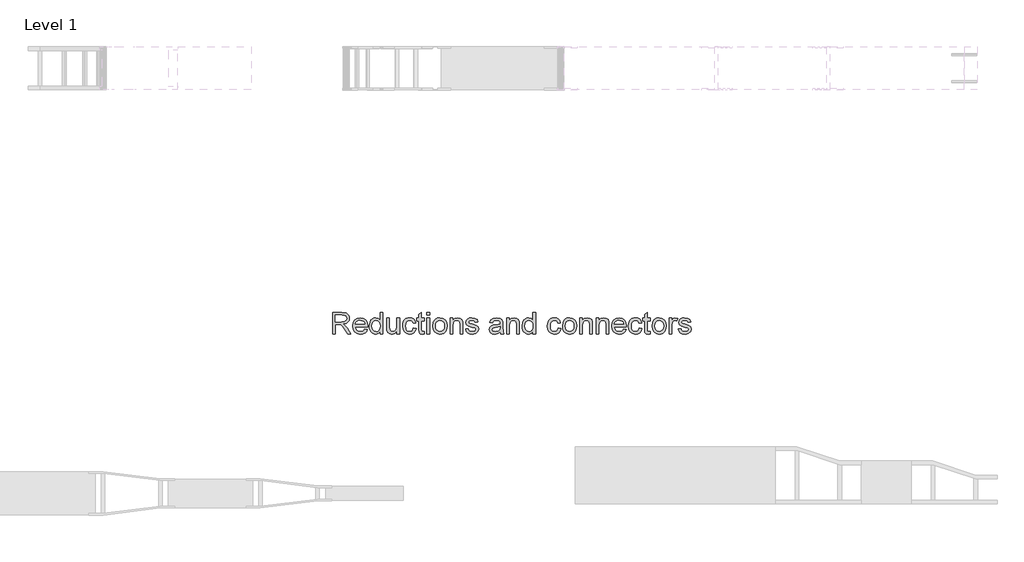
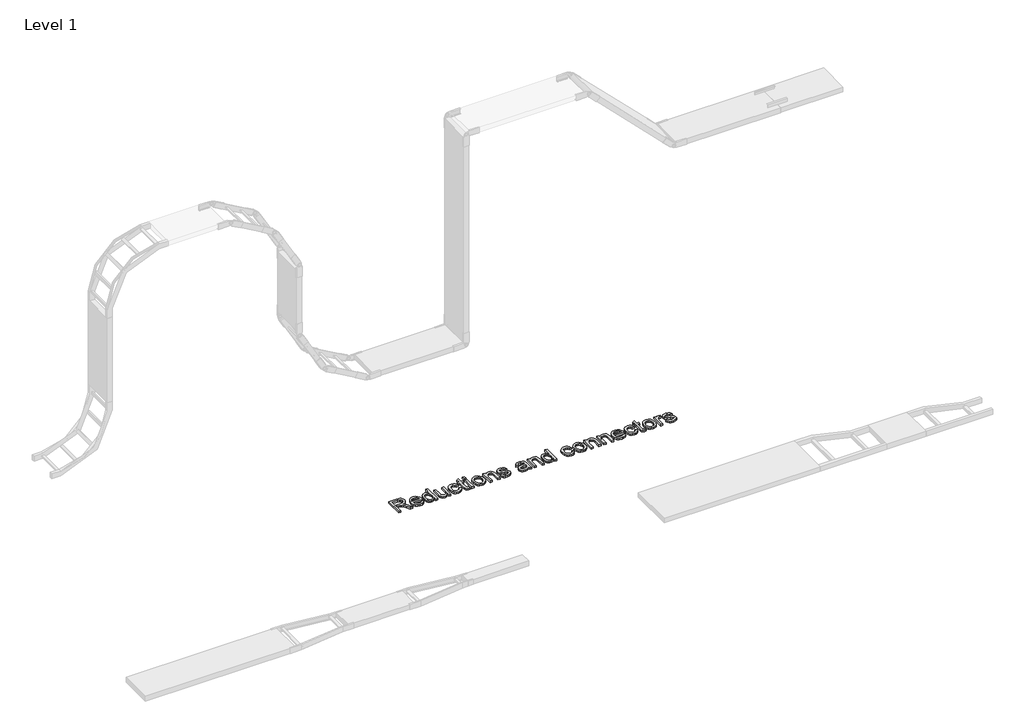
# One storey, part 67 of 106: 1 proxy.
"""IFC4 building model written with IfcOpenShell, lengths in millimetres."""

from ifc_helpers import new_model, si_unit, origin, origin_with_axes, place, context, project, spatial, polyline, outline, extrude, element, save

model = new_model("IFC4")

# Units and contexts
model_context = context("Model", 3, world=origin())
ifc_project = project(units=[si_unit("LENGTHUNIT", "METRE", prefix="MILLI")], contexts=[model_context])

# Site, building, storey
site = spatial("IfcSite", under=ifc_project)
building = spatial("IfcBuilding", under=site)
storey = spatial("IfcBuildingStorey", under=building, Name="Level 1", Elevation=0.0)

# Proxy
placement = place(None, origin())
element("IfcBuildingElementProxy", 1, Name="150mm Arial 2", ObjectType="150mm Arial 2", at=placement, inside=storey, context=model_context, shape_type="SweptSolid", body=[
    extrude(outline(polyline([(54568.5420892, 54347.8476348), (54568.5420892, 54498.5321), (54633.4732613, 54498.5321), (54663.6211908, 54494.467004), (54672.9010141, 54488.8384094), (54680.1023042, 54480.0828179), (54684.7238218, 54469.2257006), (54686.2643276, 54457.2925283), (54683.7121463, 54442.4484898), (54676.0556023, 54430.1428371), (54663.0647693, 54421.1205312), (54644.5097212, 54416.1265331), (54655.2150872, 54408.0699174), (54670.48219, 54388.6825362), (54695.6085303, 54347.8476348), (54673.7195516, 54347.8476348), (54654.1114412, 54379.0808162), (54639.9479844, 54399.7557843), (54629.9967765, 54409.5230513), (54621.0388499, 54413.1099007), (54610.1127546, 54413.7720883), (54587.3776473, 54413.7720883), (54587.3776473, 54347.8476348), (54568.5420892, 54347.8476348)]), holes=[polyline([(54587.3776473, 54432.6076465), (54629.536924, 54432.6076465), (54651.0396266, 54435.2747909), (54663.2533088, 54443.8096532), (54667.4287695, 54456.5935526), (54665.4376082, 54465.7814054), (54659.4641243, 54473.1850305), (54649.186421, 54478.068664), (54634.2826017, 54479.6965419), (54587.3776473, 54479.6965419), (54587.3776473, 54432.6076465)])]), origin_with_axes(), (0.0, 0.0, 1.0), 15.0),
    extrude(outline(polyline([(54794.3480578, 54380.8098615), (54812.815734, 54378.4554168), (54806.1616684, 54364.5402803), (54795.5436743, 54354.1384169), (54781.200875, 54347.6544967), (54763.3723938, 54345.49319), (54741.2718829, 54349.2225937), (54724.2665377, 54360.4108049), (54713.4232159, 54378.3312566), (54709.8087753, 54402.2573819), (54713.4600041, 54426.988249), (54724.4136905, 54445.4835163), (54741.1891095, 54457.0166168), (54762.305536, 54460.8609837), (54782.7643735, 54457.0258139), (54799.1121296, 54445.5203045), (54809.8312913, 54427.0618254), (54813.4043452, 54402.3677465), (54813.2939806, 54397.2909749), (54728.6443335, 54397.2909749), (54731.9046876, 54383.1918975), (54739.4784582, 54372.8268223), (54750.409152, 54366.4532667), (54763.7402758, 54364.3287482), (54782.207952, 54368.2650855), (54794.3480578, 54380.8098615)]), holes=[polyline([(54728.6443335, 54416.1265331), (54794.568787, 54416.1265331), (54792.0212042, 54426.0777411), (54787.0272061, 54433.1962577), (54776.0459285, 54439.8181336), (54762.2319596, 54442.0254255), (54749.5354323, 54440.2641905), (54739.0369998, 54434.9804853), (54731.7391407, 54426.7445272), (54728.6443335, 54416.1265331)])]), origin_with_axes(), (0.0, 0.0, 1.0), 15.0),
    extrude(outline(polyline([(54900.5188016, 54347.8476348), (54900.5188016, 54365.6163351), (54888.056799, 54350.5239763), (54870.8307246, 54345.49319), (54858.6538306, 54347.3142059), (54847.5070061, 54352.7772535), (54838.0708329, 54361.5006553), (54831.0258927, 54373.1027337), (54826.6388999, 54387.1144392), (54825.176569, 54403.0667223), (54830.5660402, 54433.0491049), (54837.2982807, 54444.9408904), (54846.7160598, 54453.6872848), (54858.1066061, 54459.067559), (54870.7571482, 54460.8609837), (54888.1211784, 54455.7290299), (54900.5188016, 54442.3933075), (54900.5188016, 54498.5321), (54919.3543598, 54498.5321), (54919.3543598, 54347.8476348), (54900.5188016, 54347.8476348)]), holes=[polyline([(54844.0121271, 54403.1402987), (54846.1366457, 54386.1027638), (54852.5102012, 54373.9856505), (54861.7716305, 54366.7429738), (54872.55977, 54364.3287482), (54883.343311, 54366.6326092), (54892.3702154, 54373.5441921), (54898.4816551, 54385.1922558), (54900.5188016, 54401.7055589), (54898.4448669, 54419.7593678), (54892.2230626, 54432.2765527), (54882.9662319, 54439.5882073), (54871.7872178, 54442.0254255), (54860.8887137, 54439.6847764), (54851.9583782, 54432.6628288), (54845.9986899, 54420.6008979), (54844.0121271, 54403.1402987)])]), origin_with_axes(), (0.0, 0.0, 1.0), 15.0),
    extrude(outline(polyline([(55018.2410401, 54347.8476348), (55018.2410401, 54366.8671339), (55003.4889721, 54350.836676), (54984.2487437, 54345.49319), (54966.5352256, 54349.2455864), (54954.3215434, 54358.6633654), (54948.711343, 54372.5325167), (54947.607697, 54390.0436996), (54947.607697, 54458.5065389), (54966.4432551, 54458.5065389), (54966.4432551, 54398.9096557), (54967.5836893, 54379.7062156), (54975.0332997, 54368.4306324), (54989.0679978, 54364.3287482), (55004.7949531, 54368.5226029), (55015.1876195, 54379.9453389), (55018.2410401, 54400.9330067), (55018.2410401, 54458.5065389), (55037.0765982, 54458.5065389), (55037.0765982, 54347.8476348), (55018.2410401, 54347.8476348)])), origin_with_axes(), (0.0, 0.0, 1.0), 15.0),
    extrude(outline(polyline([(55133.6088338, 54387.8731959), (55152.4443919, 54385.5187511), (55147.1928764, 54368.7663247), (55137.3244419, 54356.1065856), (55123.7679904, 54348.1465389), (55107.4524239, 54345.49319), (55087.4166507, 54349.1950026), (55071.7494763, 54360.3004403), (55061.6373199, 54378.3220596), (55058.2666011, 54402.7724167), (55059.7059394, 54419.5340401), (55064.0239544, 54434.0607803), (55071.2896238, 54445.7916175), (55081.5719255, 54454.1655314), (55093.8729797, 54459.1871206), (55107.1949065, 54460.8609837), (55123.1104013, 54458.5617212), (55135.8345198, 54451.6639338), (55144.9625918, 54440.5355035), (55150.0899471, 54425.5443122), (55131.254389, 54423.1898674), (55122.5171916, 54437.2981419), (55107.3420593, 54442.0254255), (55095.1697638, 54439.6985719), (55085.5082629, 54432.7180111), (55079.2036852, 54420.7066639), (55077.1021593, 54403.2874515), (55079.1576999, 54385.6337142), (55085.3243219, 54373.5809803), (55094.8110788, 54366.6418062), (55106.8270245, 54364.3287482), (55116.5804959, 54365.772685), (55124.5773308, 54370.1044955), (55130.3944648, 54377.4345442), (55133.6088338, 54387.8731959)])), origin_with_axes(), (0.0, 0.0, 1.0), 15.0),
    extrude(outline(polyline([(55208.9510664, 54363.556196), (55211.3055111, 54347.2958118), (55197.2156307, 54345.49319), (55181.4334931, 54348.620187), (55173.5608184, 54356.8239555), (55171.2799501, 54378.1978994), (55171.2799501, 54439.6709808), (55157.1532814, 54439.6709808), (55157.1532814, 54458.5065389), (55171.2799501, 54458.5065389), (55171.2799501, 54485.3987128), (55190.1155082, 54496.4719608), (55190.1155082, 54458.5065389), (55208.9510664, 54458.5065389), (55208.9510664, 54439.6709808), (55190.1155082, 54439.6709808), (55190.1155082, 54378.7497224), (55191.1087896, 54369.0376377), (55194.3277571, 54365.597941), (55200.7472979, 54364.3287482), (55208.9510664, 54363.556196)])), origin_with_axes(), (0.0, 0.0, 1.0), 15.0),
    extrude(outline(polyline([(55227.7866245, 54479.6965419), (55227.7866245, 54498.5321), (55246.6221827, 54498.5321), (55246.6221827, 54479.6965419), (55227.7866245, 54479.6965419)])), origin_with_axes(), (0.0, 0.0, 1.0), 15.0),
    extrude(outline(polyline([(55227.7866245, 54347.8476348), (55227.7866245, 54458.5065389), (55246.6221827, 54458.5065389), (55246.6221827, 54347.8476348), (55227.7866245, 54347.8476348)])), origin_with_axes(), (0.0, 0.0, 1.0), 15.0),
    extrude(outline(polyline([(55270.1666304, 54403.1770869), (55274.2409235, 54429.8577286), (55286.4638027, 54448.6105133), (55301.5653587, 54457.7983661), (55319.6467587, 54460.8609837), (55339.4342115, 54457.13158), (55355.2393417, 54445.9433688), (55365.5998184, 54428.179267), (55369.0533107, 54404.7221912), (55367.5266004, 54385.693495), (55362.9464695, 54371.2081415), (55355.4462754, 54360.3602211), (55345.1593751, 54352.2438246), (55332.9410943, 54347.1808487), (55319.6467587, 54345.49319), (55299.6201826, 54349.2087982), (55283.8334465, 54360.3556226), (55273.5833344, 54378.492205), (55270.1666304, 54403.1770869)]), holes=[polyline([(55289.0021885, 54403.2138751), (55291.1818893, 54386.1671431), (55297.7209918, 54374.0224387), (55307.5618352, 54366.7521708), (55319.6467587, 54364.3287482), (55331.6765, 54366.7659664), (55341.4989492, 54374.077621), (55348.0380517, 54386.3832738), (55350.2177525, 54403.8024862), (55348.0242561, 54420.3525775), (55341.4437669, 54432.331735), (55331.6075221, 54439.6020029), (55319.6467587, 54442.0254255), (55307.5618352, 54439.6112), (55297.7209918, 54432.3685232), (55291.1818893, 54420.25141), (55289.0021885, 54403.2138751)])]), origin_with_axes(), (0.0, 0.0, 1.0), 15.0),
    extrude(outline(polyline([(55390.2433136, 54347.8476348), (55390.2433136, 54458.5065389), (55409.0788717, 54458.5065389), (55409.0788717, 54443.0554951), (55423.4814519, 54456.4096116), (55443.1447445, 54460.8609837), (55460.931839, 54457.2741342), (55473.0719448, 54447.8563552), (55478.7189334, 54434.0055981), (55479.7122148, 54415.7954393), (55479.7122148, 54347.8476348), (55460.8766567, 54347.8476348), (55460.8766567, 54413.2570535), (55458.7061529, 54429.9221079), (55451.0358133, 54438.7328817), (55438.1047612, 54442.0254255), (55427.0728998, 54440.1768185), (55417.6689163, 54434.6309974), (55411.2263829, 54423.9164343), (55409.0788717, 54406.5616012), (55409.0788717, 54347.8476348), (55390.2433136, 54347.8476348)])), origin_with_axes(), (0.0, 0.0, 1.0), 15.0),
    extrude(outline(polyline([(55498.547773, 54380.8098615), (55517.3833311, 54383.1643063), (55520.3539782, 54375.1076906), (55526.1021344, 54369.1847905), (55546.0781267, 54364.3287482), (55565.2815669, 54368.7801203), (55571.5355608, 54379.227969), (55569.9628653, 54384.028829), (55565.2447787, 54387.6892549), (55545.8573975, 54393.060332), (55517.4936957, 54402.275776), (55505.1144666, 54413.0363243), (55500.9022177, 54428.2298507), (55504.2867321, 54442.2645488), (55513.5205702, 54452.988309), (55525.4951291, 54458.5617212), (55541.700331, 54460.8609837), (55564.6193793, 54457.1637696), (55579.1875063, 54447.1573794), (55585.6622294, 54430.2532017), (55566.8266713, 54427.8987569), (55559.7449429, 54438.2914233), (55543.171859, 54442.0254255), (55525.1456412, 54438.4569702), (55519.7377759, 54430.1428371), (55521.9818561, 54424.6613954), (55529.0084022, 54420.5043288), (55545.2319982, 54416.4944151), (55572.8783301, 54407.628459), (55585.7174117, 54397.5852805), (55590.371119, 54381.2145317), (55584.9080713, 54363.188314), (55569.1443278, 54350.1101091), (55545.8206093, 54345.49319), (55526.8287013, 54347.7188761), (55512.9687472, 54354.3959343), (55503.716515, 54365.4507882), (55498.547773, 54380.8098615)])), origin_with_axes(), (0.0, 0.0, 1.0), 15.0),
    extrude(outline(polyline([(55741.0555842, 54361.9743034), (55722.7902431, 54349.2087982), (55702.6119157, 54345.49319), (55686.8711648, 54347.7280731), (55675.2598894, 54354.4327225), (55668.099986, 54364.6138567), (55665.7133516, 54377.2781944), (55669.3185951, 54392.1774152), (55678.7915565, 54402.9931459), (55691.980126, 54409.1735634), (55708.2772984, 54412.0062547), (55740.9452196, 54418.4809779), (55741.0555842, 54422.6748326), (55739.7588002, 54431.0809362), (55735.8684481, 54436.580772), (55727.1680389, 54440.6642622), (55715.0463271, 54442.0254255), (55695.9900398, 54438.4017879), (55686.9033545, 54425.5443122), (55668.0677963, 54427.8987569), (55676.2163825, 54446.2928567), (55692.6239195, 54457.0717991), (55717.4743483, 54460.8609837), (55740.3014261, 54457.5132575), (55753.19569, 54449.107154), (55758.9714374, 54436.3232546), (55759.8911423, 54419.8421412), (55759.8911423, 54396.4080581), (55760.8476355, 54363.6849547), (55764.6000319, 54347.8476348), (55745.7644737, 54347.8476348), (55741.0555842, 54361.9743034)]), holes=[polyline([(55741.0555842, 54399.6454197), (55710.6685314, 54393.8696724), (55694.4633295, 54390.8162518), (55687.1240837, 54385.8498449), (55684.5489097, 54378.6025696), (55690.1591102, 54368.4122383), (55706.6218294, 54364.3287482), (55725.6781168, 54368.8353026), (55737.9653754, 54379.7430038), (55740.9452196, 54394.3111308), (55741.0555842, 54399.6454197)])]), origin_with_axes(), (0.0, 0.0, 1.0), 15.0),
    extrude(outline(polyline([(55785.7900348, 54347.8476348), (55785.7900348, 54458.5065389), (55804.625593, 54458.5065389), (55804.625593, 54443.0554951), (55819.0281731, 54456.4096116), (55838.6914657, 54460.8609837), (55856.4785602, 54457.2741342), (55868.618666, 54447.8563552), (55874.2656546, 54434.0055981), (55875.258936, 54415.7954393), (55875.258936, 54347.8476348), (55856.4233779, 54347.8476348), (55856.4233779, 54413.2570535), (55854.2528741, 54429.9221079), (55846.5825345, 54438.7328817), (55833.6514824, 54442.0254255), (55822.619621, 54440.1768185), (55813.2156375, 54434.6309974), (55806.7731041, 54423.9164343), (55804.625593, 54406.5616012), (55804.625593, 54347.8476348), (55785.7900348, 54347.8476348)])), origin_with_axes(), (0.0, 0.0, 1.0), 15.0),
    extrude(outline(polyline([(55969.4367268, 54347.8476348), (55969.4367268, 54365.6163351), (55956.9747242, 54350.5239763), (55939.7486498, 54345.49319), (55927.5717557, 54347.3142059), (55916.4249313, 54352.7772535), (55906.9887581, 54361.5006553), (55899.9438179, 54373.1027337), (55895.5568251, 54387.1144392), (55894.0944942, 54403.0667223), (55899.4839654, 54433.0491049), (55906.2162059, 54444.9408904), (55915.633985, 54453.6872848), (55927.0245313, 54459.067559), (55939.6750734, 54460.8609837), (55957.0391036, 54455.7290299), (55969.4367268, 54442.3933075), (55969.4367268, 54498.5321), (55988.2722849, 54498.5321), (55988.2722849, 54347.8476348), (55969.4367268, 54347.8476348)]), holes=[polyline([(55912.9300523, 54403.1402987), (55915.0545709, 54386.1027638), (55921.4281264, 54373.9856505), (55930.6895557, 54366.7429738), (55941.4776952, 54364.3287482), (55952.2612361, 54366.6326092), (55961.2881406, 54373.5441921), (55967.3995802, 54385.1922558), (55969.4367268, 54401.7055589), (55967.362792, 54419.7593678), (55961.1409878, 54432.2765527), (55951.8841571, 54439.5882073), (55940.705143, 54442.0254255), (55929.8066389, 54439.6847764), (55920.8763034, 54432.6628288), (55914.9166151, 54420.6008979), (55912.9300523, 54403.1402987)])]), origin_with_axes(), (0.0, 0.0, 1.0), 15.0),
    extrude(outline(polyline([(56146.0200845, 54387.8731959), (56164.8556426, 54385.5187511), (56159.6041272, 54368.7663247), (56149.7356926, 54356.1065856), (56136.1792411, 54348.1465389), (56119.8636746, 54345.49319), (56099.8279015, 54349.1950026), (56084.160727, 54360.3004403), (56074.0485706, 54378.3220596), (56070.6778519, 54402.7724167), (56072.1171902, 54419.5340401), (56076.4352051, 54434.0607803), (56083.7008745, 54445.7916175), (56093.9831763, 54454.1655314), (56106.2842305, 54459.1871206), (56119.6061572, 54460.8609837), (56135.521652, 54458.5617212), (56148.2457706, 54451.6639338), (56157.3738426, 54440.5355035), (56162.5011979, 54425.5443122), (56143.6656397, 54423.1898674), (56134.9284423, 54437.2981419), (56119.75331, 54442.0254255), (56107.5810145, 54439.6985719), (56097.9195136, 54432.7180111), (56091.6149359, 54420.7066639), (56089.51341, 54403.2874515), (56091.5689507, 54385.6337142), (56097.7355726, 54373.5809803), (56107.2223296, 54366.6418062), (56119.2382752, 54364.3287482), (56128.9917466, 54365.772685), (56136.9885815, 54370.1044955), (56142.8057155, 54377.4345442), (56146.0200845, 54387.8731959)])), origin_with_axes(), (0.0, 0.0, 1.0), 15.0),
    extrude(outline(polyline([(56176.6278665, 54403.1770869), (56180.7021596, 54429.8577286), (56192.9250389, 54448.6105133), (56208.0265948, 54457.7983661), (56226.1079948, 54460.8609837), (56245.8954476, 54457.13158), (56261.7005779, 54445.9433688), (56272.0610546, 54428.179267), (56275.5145468, 54404.7221912), (56273.9878365, 54385.693495), (56269.4077057, 54371.2081415), (56261.9075115, 54360.3602211), (56251.6206112, 54352.2438246), (56239.4023304, 54347.1808487), (56226.1079948, 54345.49319), (56206.0814187, 54349.2087982), (56190.2946826, 54360.3556226), (56180.0445705, 54378.492205), (56176.6278665, 54403.1770869)]), holes=[polyline([(56195.4634246, 54403.2138751), (56197.6431255, 54386.1671431), (56204.1822279, 54374.0224387), (56214.0230713, 54366.7521708), (56226.1079948, 54364.3287482), (56238.1377361, 54366.7659664), (56247.9601853, 54374.077621), (56254.4992878, 54386.3832738), (56256.6789886, 54403.8024862), (56254.4854922, 54420.3525775), (56247.905003, 54432.331735), (56238.0687582, 54439.6020029), (56226.1079948, 54442.0254255), (56214.0230713, 54439.6112), (56204.1822279, 54432.3685232), (56197.6431255, 54420.25141), (56195.4634246, 54403.2138751)])]), origin_with_axes(), (0.0, 0.0, 1.0), 15.0),
    extrude(outline(polyline([(56296.7045497, 54347.8476348), (56296.7045497, 54458.5065389), (56315.5401079, 54458.5065389), (56315.5401079, 54443.0554951), (56329.942688, 54456.4096116), (56349.6059806, 54460.8609837), (56367.3930751, 54457.2741342), (56379.5331809, 54447.8563552), (56385.1801695, 54434.0055981), (56386.1734509, 54415.7954393), (56386.1734509, 54347.8476348), (56367.3378928, 54347.8476348), (56367.3378928, 54413.2570535), (56365.167389, 54429.9221079), (56357.4970494, 54438.7328817), (56344.5659973, 54442.0254255), (56333.5341359, 54440.1768185), (56324.1301524, 54434.6309974), (56317.687619, 54423.9164343), (56315.5401079, 54406.5616012), (56315.5401079, 54347.8476348), (56296.7045497, 54347.8476348)])), origin_with_axes(), (0.0, 0.0, 1.0), 15.0),
    extrude(outline(polyline([(56412.0723434, 54347.8476348), (56412.0723434, 54458.5065389), (56430.9079015, 54458.5065389), (56430.9079015, 54443.0554951), (56445.3104817, 54456.4096116), (56464.9737743, 54460.8609837), (56482.7608688, 54457.2741342), (56494.9009746, 54447.8563552), (56500.5479632, 54434.0055981), (56501.5412446, 54415.7954393), (56501.5412446, 54347.8476348), (56482.7056865, 54347.8476348), (56482.7056865, 54413.2570535), (56480.5351827, 54429.9221079), (56472.8648431, 54438.7328817), (56459.933791, 54442.0254255), (56448.9019296, 54440.1768185), (56439.4979461, 54434.6309974), (56433.0554127, 54423.9164343), (56430.9079015, 54406.5616012), (56430.9079015, 54347.8476348), (56412.0723434, 54347.8476348)])), origin_with_axes(), (0.0, 0.0, 1.0), 15.0),
    extrude(outline(polyline([(56604.9160853, 54380.8098615), (56623.3837614, 54378.4554168), (56616.7296958, 54364.5402803), (56606.1117017, 54354.1384169), (56591.7689025, 54347.6544967), (56573.9404213, 54345.49319), (56551.8399104, 54349.2225937), (56534.8345652, 54360.4108049), (56523.9912434, 54378.3312566), (56520.3768028, 54402.2573819), (56524.0280316, 54426.988249), (56534.981718, 54445.4835163), (56551.757137, 54457.0166168), (56572.8735635, 54460.8609837), (56593.3324009, 54457.0258139), (56609.6801571, 54445.5203045), (56620.3993187, 54427.0618254), (56623.9723726, 54402.3677465), (56623.862008, 54397.2909749), (56539.2123609, 54397.2909749), (56542.4727151, 54383.1918975), (56550.0464857, 54372.8268223), (56560.9771795, 54366.4532667), (56574.3083033, 54364.3287482), (56592.7759794, 54368.2650855), (56604.9160853, 54380.8098615)]), holes=[polyline([(56539.2123609, 54416.1265331), (56605.1368145, 54416.1265331), (56602.5892316, 54426.0777411), (56597.5952336, 54433.1962577), (56586.613956, 54439.8181336), (56572.7999871, 54442.0254255), (56560.1034597, 54440.2641905), (56549.6050273, 54434.9804853), (56542.3071682, 54426.7445272), (56539.2123609, 54416.1265331)])]), origin_with_axes(), (0.0, 0.0, 1.0), 15.0),
    extrude(outline(polyline([(56713.4412738, 54387.8731959), (56732.276832, 54385.5187511), (56727.0253165, 54368.7663247), (56717.156882, 54356.1065856), (56703.6004305, 54348.1465389), (56687.284864, 54345.49319), (56667.2490908, 54349.1950026), (56651.5819164, 54360.3004403), (56641.46976, 54378.3220596), (56638.0990412, 54402.7724167), (56639.5383795, 54419.5340401), (56643.8563945, 54434.0607803), (56651.1220639, 54445.7916175), (56661.4043656, 54454.1655314), (56673.7054198, 54459.1871206), (56687.0273466, 54460.8609837), (56702.9428414, 54458.5617212), (56715.6669599, 54451.6639338), (56724.7950319, 54440.5355035), (56729.9223872, 54425.5443122), (56711.0868291, 54423.1898674), (56702.3496317, 54437.2981419), (56687.1744994, 54442.0254255), (56675.0022039, 54439.6985719), (56665.340703, 54432.7180111), (56659.0361253, 54420.7066639), (56656.9345994, 54403.2874515), (56658.99014, 54385.6337142), (56665.156762, 54373.5809803), (56674.6435189, 54366.6418062), (56686.6594646, 54364.3287482), (56696.412936, 54365.772685), (56704.4097709, 54370.1044955), (56710.2269049, 54377.4345442), (56713.4412738, 54387.8731959)])), origin_with_axes(), (0.0, 0.0, 1.0), 15.0),
    extrude(outline(polyline([(56788.7835065, 54363.556196), (56791.1379512, 54347.2958118), (56777.0480708, 54345.49319), (56761.2659332, 54348.620187), (56753.3932585, 54356.8239555), (56751.1123901, 54378.1978994), (56751.1123901, 54439.6709808), (56736.9857215, 54439.6709808), (56736.9857215, 54458.5065389), (56751.1123901, 54458.5065389), (56751.1123901, 54485.3987128), (56769.9479483, 54496.4719608), (56769.9479483, 54458.5065389), (56788.7835065, 54458.5065389), (56788.7835065, 54439.6709808), (56769.9479483, 54439.6709808), (56769.9479483, 54378.7497224), (56770.9412297, 54369.0376377), (56774.1601971, 54365.597941), (56780.579738, 54364.3287482), (56788.7835065, 54363.556196)])), origin_with_axes(), (0.0, 0.0, 1.0), 15.0),
    extrude(outline(polyline([(56802.9101751, 54403.1770869), (56806.9844682, 54429.8577286), (56819.2073475, 54448.6105133), (56834.3089034, 54457.7983661), (56852.3903034, 54460.8609837), (56872.1777562, 54457.13158), (56887.9828865, 54445.9433688), (56898.3433631, 54428.179267), (56901.7968554, 54404.7221912), (56900.2701451, 54385.693495), (56895.6900143, 54371.2081415), (56888.1898201, 54360.3602211), (56877.9029198, 54352.2438246), (56865.684639, 54347.1808487), (56852.3903034, 54345.49319), (56832.3637273, 54349.2087982), (56816.5769912, 54360.3556226), (56806.3268791, 54378.492205), (56802.9101751, 54403.1770869)]), holes=[polyline([(56821.7457332, 54403.2138751), (56823.925434, 54386.1671431), (56830.4645365, 54374.0224387), (56840.3053799, 54366.7521708), (56852.3903034, 54364.3287482), (56864.4200447, 54366.7659664), (56874.2424939, 54374.077621), (56880.7815964, 54386.3832738), (56882.9612972, 54403.8024862), (56880.7678008, 54420.3525775), (56874.1873116, 54432.331735), (56864.3510668, 54439.6020029), (56852.3903034, 54442.0254255), (56840.3053799, 54439.6112), (56830.4645365, 54432.3685232), (56823.925434, 54420.25141), (56821.7457332, 54403.2138751)])]), origin_with_axes(), (0.0, 0.0, 1.0), 15.0),
    extrude(outline(polyline([(56922.9868583, 54347.8476348), (56922.9868583, 54458.5065389), (56939.4679717, 54458.5065389), (56939.4679717, 54442.1357901), (56951.1666191, 54457.2189519), (56962.938843, 54460.8609837), (56981.8479775, 54455.0484482), (56975.5571954, 54438.1626646), (56962.3134436, 54442.0254255), (56951.6632598, 54438.3098174), (56944.875837, 54428.0091215), (56941.8224164, 54406.0097782), (56941.8224164, 54347.8476348), (56922.9868583, 54347.8476348)])), origin_with_axes(), (0.0, 0.0, 1.0), 15.0),
    extrude(outline(polyline([(56986.5568671, 54380.8098615), (57005.3924252, 54383.1643063), (57008.3630723, 54375.1076906), (57014.1112285, 54369.1847905), (57034.0872208, 54364.3287482), (57053.290661, 54368.7801203), (57059.5446549, 54379.227969), (57057.9719594, 54384.028829), (57053.2538728, 54387.6892549), (57033.8664916, 54393.060332), (57005.5027898, 54402.275776), (56993.1235607, 54413.0363243), (56988.9113118, 54428.2298507), (56992.2958262, 54442.2645488), (57001.5296643, 54452.988309), (57013.5042232, 54458.5617212), (57029.7094251, 54460.8609837), (57052.6284734, 54457.1637696), (57067.1966004, 54447.1573794), (57073.6713235, 54430.2532017), (57054.8357654, 54427.8987569), (57047.754037, 54438.2914233), (57031.1809531, 54442.0254255), (57013.1547353, 54438.4569702), (57007.74687, 54430.1428371), (57009.9909502, 54424.6613954), (57017.0174963, 54420.5043288), (57033.2410922, 54416.4944151), (57060.8874242, 54407.628459), (57073.7265058, 54397.5852805), (57078.3802131, 54381.2145317), (57072.9171654, 54363.188314), (57057.1534219, 54350.1101091), (57033.8297034, 54345.49319), (57014.8377954, 54347.7188761), (57000.9778413, 54354.3959343), (56991.7256091, 54365.4507882), (56986.5568671, 54380.8098615)])), origin_with_axes(), (0.0, 0.0, 1.0), 15.0),
])

save(model, "model.ifc")
